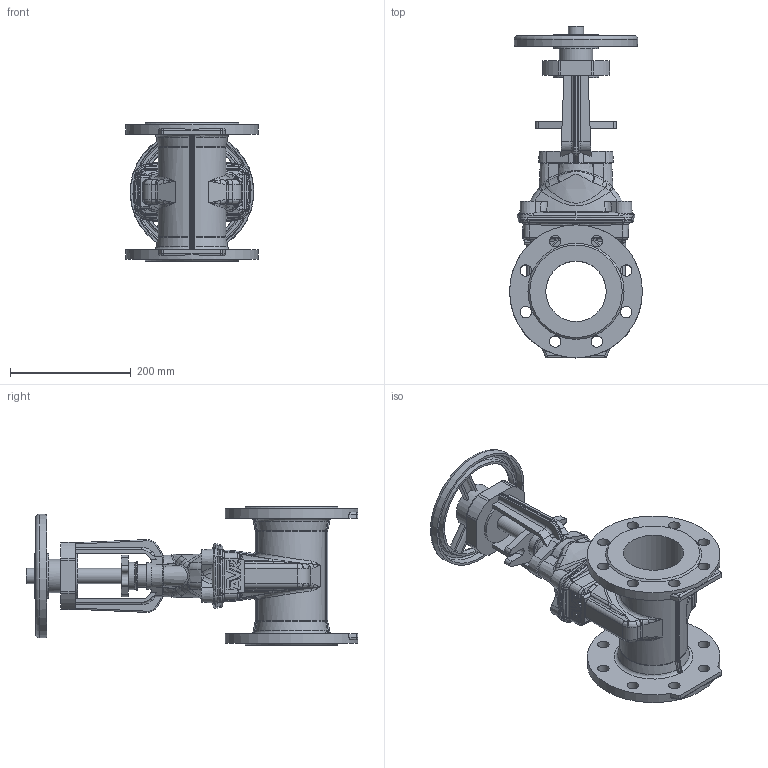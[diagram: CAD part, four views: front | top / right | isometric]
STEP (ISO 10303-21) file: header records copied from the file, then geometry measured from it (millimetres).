
FILE_DESCRIPTION (( 'STEP AP203' ), '1' );
FILE_NAME ('O_21_34_DN100_41XXXXX close_AA0.step', '2020-02-12T09:04:48', ( 'Windows User' ), ( 'AVK' ), 'SwSTEP 2.0', 'SolidWorks 2012', '' );
FILE_SCHEMA (( 'CONFIG_CONTROL_DESIGN' ));
Length unit declared in the file: millimetre
Products named in the file (1): O_21_34_DN100_41XXXXX close_AA0
Bounding box: 220 x 549.37 x 229 mm (x, y, z)
Volume: 4308846.4 mm3; surface area: 555315 mm2
Topology: 1 solids, 1 shells, 871 faces, 2211 edges, 1337 vertices
Faces by surface type: bspline 300, cylinder 240, plane 193, cone 65, torus 65, sphere 8
Full cylindrical faces by diameter (mm): 19 x16, 25 x2, 36.9 x1, 44 x1, 45 x1, 47 x1, 55 x1, 74 x1, 100 x1, 220 x2
Entity records: 35902 total; most frequent: CARTESIAN_POINT 17583, ORIENTED_EDGE 4256, DIRECTION 3270, EDGE_CURVE 2128, AXIS2_PLACEMENT_3D 1316, VERTEX_POINT 1312, EDGE_LOOP 968, FACE_OUTER_BOUND 902
